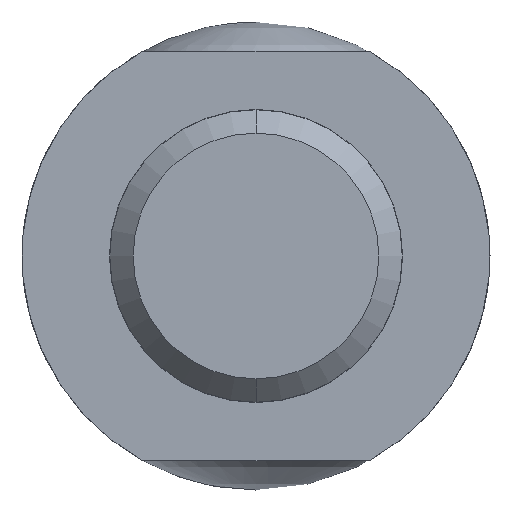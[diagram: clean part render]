
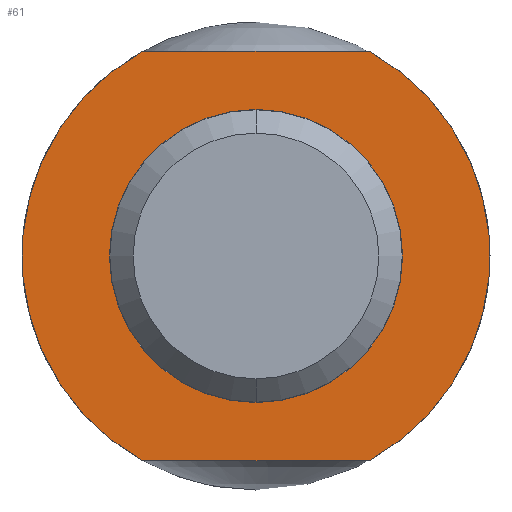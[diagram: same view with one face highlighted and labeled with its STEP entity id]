
A CAD part, front view. The second image highlights one B-rep face of the part: STEP entity #61.
In plain terms, the highlighted planar face has unit normal (0, -1, 0).
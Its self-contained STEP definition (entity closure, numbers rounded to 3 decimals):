
#8 = EDGE_CURVE ( 'NONE', #76, #84, #364, .T. ) ;
#22 = ORIENTED_EDGE ( 'NONE', *, *, #43, .F. ) ;
#43 = EDGE_CURVE ( 'NONE', #83, #84, #350, .T. ) ;
#61 = ADVANCED_FACE ( 'NONE', ( #312, #311 ), #310, .F. ) ;
#62 = EDGE_LOOP ( 'NONE', ( #63, #64 ) ) ;
#63 = ORIENTED_EDGE ( 'NONE', *, *, #136, .T. ) ;
#64 = ORIENTED_EDGE ( 'NONE', *, *, #65, .T. ) ;
#65 = EDGE_CURVE ( 'NONE', #134, #137, #305, .T. ) ;
#66 = EDGE_LOOP ( 'NONE', ( #67, #69, #70, #22 ) ) ;
#67 = ORIENTED_EDGE ( 'NONE', *, *, #68, .T. ) ;
#68 = EDGE_CURVE ( 'NONE', #83, #116, #231, .T. ) ;
#69 = ORIENTED_EDGE ( 'NONE', *, *, #78, .F. ) ;
#70 = ORIENTED_EDGE ( 'NONE', *, *, #8, .T. ) ;
#76 = VERTEX_POINT ( 'NONE', #217 ) ;
#78 = EDGE_CURVE ( 'NONE', #76, #116, #178, .T. ) ;
#83 = VERTEX_POINT ( 'NONE', #164 ) ;
#84 = VERTEX_POINT ( 'NONE', #163 ) ;
#116 = VERTEX_POINT ( 'NONE', #388 ) ;
#134 = VERTEX_POINT ( 'NONE', #510 ) ;
#136 = EDGE_CURVE ( 'NONE', #137, #134, #509, .T. ) ;
#137 = VERTEX_POINT ( 'NONE', #504 ) ;
#163 = CARTESIAN_POINT ( 'NONE',  ( -1.936, 0., 3.5 ) ) ;
#164 = CARTESIAN_POINT ( 'NONE',  ( -1.936, 0., -3.5 ) ) ;
#174 = DIRECTION ( 'NONE',  ( 0., 0., 1. ) ) ;
#175 = DIRECTION ( 'NONE',  ( 0., 1., 0. ) ) ;
#176 = CARTESIAN_POINT ( 'NONE',  ( 0., 0., 0. ) ) ;
#177 = AXIS2_PLACEMENT_3D ( 'NONE', #176, #175, #174 ) ;
#178 = CIRCLE ( 'NONE', #177, 4. ) ;
#217 = CARTESIAN_POINT ( 'NONE',  ( 1.936, 0., 3.5 ) ) ;
#228 = DIRECTION ( 'NONE',  ( 1., 0., 0. ) ) ;
#229 = VECTOR ( 'NONE', #228, 1000. ) ;
#230 = CARTESIAN_POINT ( 'NONE',  ( -4., 0., -3.5 ) ) ;
#231 = LINE ( 'NONE', #230, #229 ) ;
#266 = DIRECTION ( 'NONE',  ( -1., 0., 0. ) ) ;
#267 = VECTOR ( 'NONE', #266, 1000. ) ;
#301 = DIRECTION ( 'NONE',  ( 0., 0., 1. ) ) ;
#302 = DIRECTION ( 'NONE',  ( 0., 1., 0. ) ) ;
#303 = CARTESIAN_POINT ( 'NONE',  ( 0., 0., 0. ) ) ;
#304 = AXIS2_PLACEMENT_3D ( 'NONE', #303, #302, #301 ) ;
#305 = CIRCLE ( 'NONE', #304, 2.505 ) ;
#306 = DIRECTION ( 'NONE',  ( 0., 0., 1. ) ) ;
#307 = DIRECTION ( 'NONE',  ( 0., 1., 0. ) ) ;
#308 = CARTESIAN_POINT ( 'NONE',  ( 0., 0., 0. ) ) ;
#309 = AXIS2_PLACEMENT_3D ( 'NONE', #308, #307, #306 ) ;
#310 = PLANE ( 'NONE',  #309 ) ;
#311 = FACE_OUTER_BOUND ( 'NONE', #66, .T. ) ;
#312 = FACE_BOUND ( 'NONE', #62, .T. ) ;
#346 = DIRECTION ( 'NONE',  ( 0., 0., 1. ) ) ;
#347 = DIRECTION ( 'NONE',  ( 0., 1., 0. ) ) ;
#348 = CARTESIAN_POINT ( 'NONE',  ( 0., 0., 0. ) ) ;
#349 = AXIS2_PLACEMENT_3D ( 'NONE', #348, #347, #346 ) ;
#350 = CIRCLE ( 'NONE', #349, 4. ) ;
#363 = CARTESIAN_POINT ( 'NONE',  ( -4., 0., 3.5 ) ) ;
#364 = LINE ( 'NONE', #363, #267 ) ;
#388 = CARTESIAN_POINT ( 'NONE',  ( 1.936, 0., -3.5 ) ) ;
#504 = CARTESIAN_POINT ( 'NONE',  ( 0., 0., 2.505 ) ) ;
#505 = DIRECTION ( 'NONE',  ( 0., 0., 1. ) ) ;
#506 = DIRECTION ( 'NONE',  ( 0., 1., 0. ) ) ;
#507 = CARTESIAN_POINT ( 'NONE',  ( 0., 0., 0. ) ) ;
#508 = AXIS2_PLACEMENT_3D ( 'NONE', #507, #506, #505 ) ;
#509 = CIRCLE ( 'NONE', #508, 2.505 ) ;
#510 = CARTESIAN_POINT ( 'NONE',  ( 0., 0., -2.505 ) ) ;
